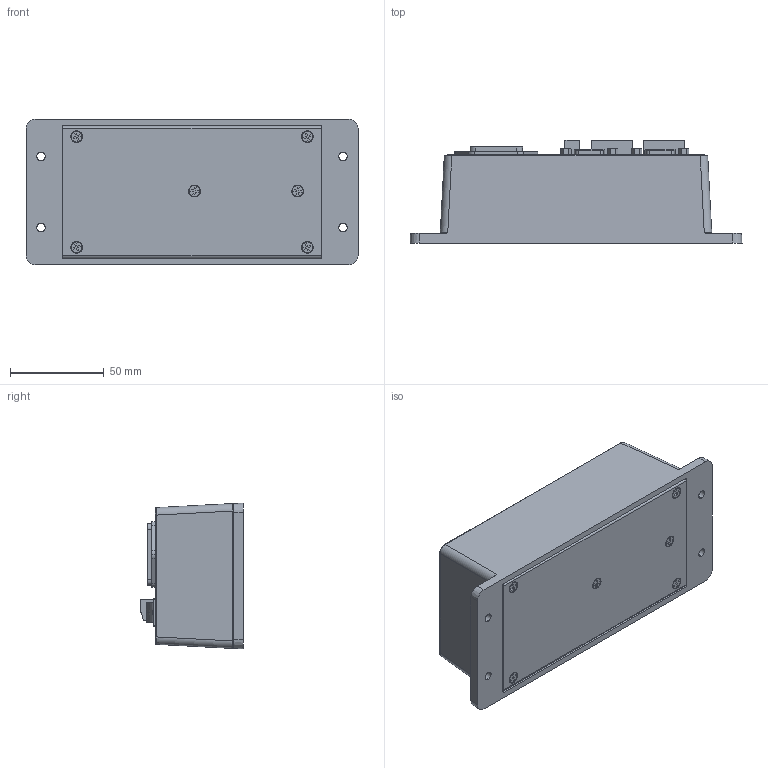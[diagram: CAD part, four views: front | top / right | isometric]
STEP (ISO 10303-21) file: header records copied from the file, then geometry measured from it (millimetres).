
FILE_DESCRIPTION (( 'STEP AP203' ), '1' );
FILE_NAME ('inno-eye Control box-17.01.05.STEP', '2017-01-05T07:07:33', ( 'Moon gyu ha' ), ( '' ), 'SwSTEP 2.0', 'SolidWorks 2015', '' );
FILE_SCHEMA (( 'CONFIG_CONTROL_DESIGN' ));
Length unit declared in the file: millimetre
Products named in the file (1): inno-eye Control box-17.01.05
Bounding box: 177 x 55.05 x 77.82 mm (x, y, z)
Volume: 525646.9 mm3; surface area: 95965.2 mm2
Topology: 25 solids, 37 shells, 2060 faces, 5018 edges, 3210 vertices
Faces by surface type: plane 1561, cylinder 304, cone 162, bspline 23, torus 10
Entity records: 60608 total; most frequent: CARTESIAN_POINT 11797, ORIENTED_EDGE 10030, DIRECTION 9824, EDGE_CURVE 5015, VECTOR 4034, LINE 4034, VERTEX_POINT 3210, AXIS2_PLACEMENT_3D 2895
